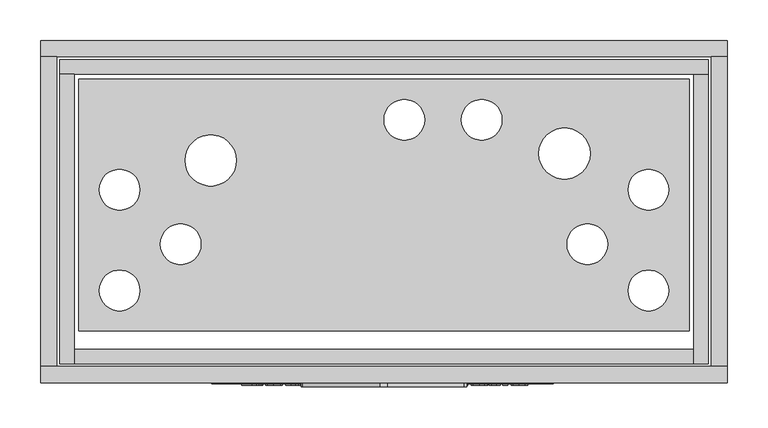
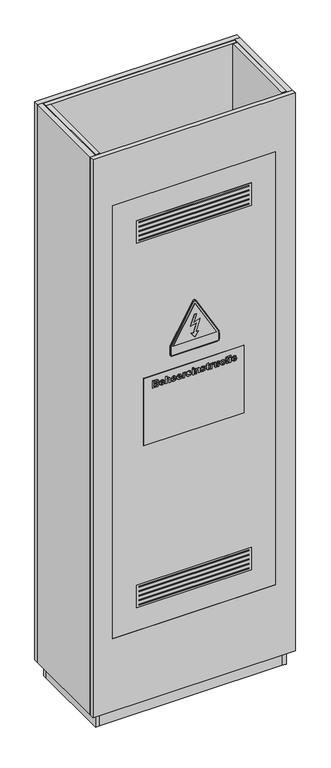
"""IFC4 building model written with IfcOpenShell, lengths in millimetres: proxy geometry, Prefab meterkast : Prefab meterkast."""

from ifc_helpers import new_model, si_unit, point, frame, frame_2d, origin, origin_with_axes, place, context, project, spatial, polyline, circle_curve, trimmed, segment, composite_curve, outline, extrude, source, transform, mapped, element, save


def generic_models_31848814(model_context):
    return source(origin(), model_context, "Body", "SweptSolid", [
        extrude(outline(polyline([(1463.7849568, 247.3485473), (1433.1771748, 247.3485473), (1433.1771748, 257.8092426), (1433.3821377, 265.2941814), (1434.8282643, 269.4579632), (1437.9634364, 272.12248), (1442.0057588, 273.0979512), (1446.5984443, 271.7391236), (1449.3616469, 267.8524211), (1452.0717109, 270.9762064), (1456.0343255, 272.1262756), (1459.6363574, 271.1621912), (1462.2097796, 268.7519802), (1463.4813082, 265.472575), (1463.7849568, 259.9120094), (1463.7849568, 247.3485473)]), holes=[polyline([(1458.4407409, 253.178601), (1458.4407409, 257.0804859), (1458.3420551, 262.8801748), (1457.3058542, 265.4346189), (1455.0930148, 266.2962219), (1452.7928764, 265.297977), (1451.7376974, 262.5613437), (1451.6390116, 257.6270535), (1451.6390116, 253.178601), (1458.4407409, 253.178601)]), polyline([(1446.2947957, 253.178601), (1446.2947957, 258.560773), (1445.8772788, 264.4667389), (1444.5488161, 266.546732), (1442.3321811, 267.2678975), (1439.8612403, 266.3341779), (1438.7035799, 263.9125801), (1438.5213907, 259.3426682), (1438.5213907, 253.178601), (1446.2947957, 253.178601)])]), frame((0.0, -424.0, 0.0), z_axis=(0.0, 1.0, 0.0), x_axis=(0.0, 0.0, 1.0)), (0.0, 0.0, 1.0), 2.0),
        extrude(outline(polyline([(1439.9789042, 290.5881123), (1437.754678, 289.2141023), (1437.0638773, 286.9746936), (1438.5973029, 283.7028796), (1442.893931, 282.3288696), (1442.893931, 296.9040039), (1452.7852852, 294.2091223), (1456.0115519, 286.5192207), (1452.8687886, 279.3379306), (1444.1844377, 276.4988159), (1436.4945361, 278.6395387), (1432.691337, 286.9974673), (1434.3044704, 292.9413892), (1439.0072286, 296.4181661), (1439.9789042, 290.5881123)]), holes=[polyline([(1446.2947957, 291.0739502), (1446.2947957, 282.4275554), (1450.2042718, 283.6421499), (1451.6390116, 286.7697308), (1450.2763884, 289.7758523), (1446.2947957, 291.0739502)])]), frame((0.0, -424.0, 0.0), z_axis=(0.0, 1.0, 0.0), x_axis=(0.0, 0.0, 1.0)), (0.0, 0.0, 1.0), 2.0),
        extrude(outline(polyline([(1463.7849568, 307.1065979), (1463.7849568, 301.2765442), (1433.1771748, 301.2765442), (1433.1771748, 307.1065979), (1444.4501303, 307.1065979), (1448.7467584, 307.6265961), (1450.9178461, 309.2700944), (1451.6390116, 311.8207429), (1451.0772616, 313.8855536), (1449.5628141, 315.0394183), (1445.0650187, 315.3658406), (1433.1771748, 315.3658406), (1433.1771748, 321.1958943), (1446.2796133, 321.1958943), (1450.7128833, 320.8998369), (1453.3204659, 319.7915194), (1455.2562259, 317.3775128), (1456.0115519, 313.7792765), (1452.7017818, 307.1065979), (1463.7849568, 307.1065979)])), frame((0.0, -424.0, 0.0), z_axis=(0.0, 1.0, 0.0), x_axis=(0.0, 0.0, 1.0)), (0.0, 0.0, 1.0), 2.0),
        extrude(outline(polyline([(1439.9789042, 339.6577311), (1437.754678, 338.283721), (1437.0638773, 336.0443124), (1438.5973029, 332.7724984), (1442.893931, 331.3984883), (1442.893931, 345.9736226), (1452.7852852, 343.278741), (1456.0115519, 335.5888394), (1452.8687886, 328.4075493), (1444.1844377, 325.5684346), (1436.4945361, 327.7091575), (1432.691337, 336.067086), (1434.3044704, 342.011008), (1439.0072286, 345.4877848), (1439.9789042, 339.6577311)]), holes=[polyline([(1446.2947957, 340.1435689), (1446.2947957, 331.4971741), (1450.2042718, 332.7117687), (1451.6390116, 335.8393496), (1450.2763884, 338.845471), (1446.2947957, 340.1435689)])]), frame((0.0, -424.0, 0.0), z_axis=(0.0, 1.0, 0.0), x_axis=(0.0, 0.0, 1.0)), (0.0, 0.0, 1.0), 2.0),
        extrude(outline(polyline([(1439.9789042, 362.977946), (1437.754678, 361.6039359), (1437.0638773, 359.3645272), (1438.5973029, 356.0927133), (1442.893931, 354.7187032), (1442.893931, 369.2938375), (1452.7852852, 366.5989559), (1456.0115519, 358.9090543), (1452.8687886, 351.7277642), (1444.1844377, 348.8886495), (1436.4945361, 351.0293723), (1432.691337, 359.3873009), (1434.3044704, 365.3312228), (1439.0072286, 368.8079997), (1439.9789042, 362.977946)]), holes=[polyline([(1446.2947957, 363.4637838), (1446.2947957, 354.817389), (1450.2042718, 356.0319835), (1451.6390116, 359.1595644), (1450.2763884, 362.1656859), (1446.2947957, 363.4637838)])]), frame((0.0, -424.0, 0.0), z_axis=(0.0, 1.0, 0.0), x_axis=(0.0, 0.0, 1.0)), (0.0, 0.0, 1.0), 2.0),
        extrude(outline(polyline([(1439.4930664, 387.7556742), (1434.52082, 391.1603345), (1432.691337, 398.2239608), (1434.888994, 405.6519654), (1440.1459109, 408.1608622), (1444.5260424, 406.430065), (1447.1298294, 400.2697934), (1451.0013495, 395.1115623), (1451.6390116, 397.8823561), (1450.8874812, 400.235633), (1448.7239847, 401.3591329), (1449.6956604, 407.1891866), (1454.4173966, 404.2513861), (1456.0115519, 397.7305318), (1454.0378358, 390.9212112), (1449.1718665, 388.7273499), (1444.1540728, 391.2855896), (1441.2997757, 400.0230789), (1439.4399279, 402.3308085), (1437.8913198, 401.571687), (1437.0638773, 398.2239608), (1437.9292759, 395.0774019), (1440.464742, 393.585728), (1439.4930664, 387.7556742)])), frame((0.0, -424.0, 0.0), z_axis=(0.0, 1.0, 0.0), x_axis=(0.0, 0.0, 1.0)), (0.0, 0.0, 1.0), 2.0),
        extrude(outline(polyline([(1433.1771748, 379.4964315), (1439.8650359, 379.4964315), (1447.1222382, 379.9784737), (1449.5172668, 381.2993452), (1450.1814982, 383.3527691), (1449.2325962, 386.0552419), (1454.7817749, 387.7556742), (1456.0115519, 384.1802116), (1455.3169556, 381.8269347), (1452.4133156, 379.4964315), (1455.5257141, 379.4964315), (1455.5257141, 373.6663778), (1433.1771748, 373.6663778), (1433.1771748, 379.4964315)])), frame((0.0, -424.0, 0.0), z_axis=(0.0, 1.0, 0.0), x_axis=(0.0, 0.0, 1.0)), (0.0, 0.0, 1.0), 2.0),
        extrude(outline(polyline([(419.3351319, -424.0), (413.5050781, -424.0), (413.5050781, -422.0), (419.3351319, -422.0), (419.3351319, -424.0)])), frame((0.0, 0.0, 1458.4407409), z_axis=(0.0, 0.0, 1.0), x_axis=(1.0, 0.0, 0.0)), (0.0, 0.0, 1.0), 5.3442159),
        extrude(outline(polyline([(419.3351319, -424.0), (413.5050781, -424.0), (413.5050781, -422.0), (419.3351319, -422.0), (419.3351319, -424.0)])), frame((0.0, 0.0, 1433.1771748), z_axis=(0.0, 0.0, 1.0), x_axis=(1.0, 0.0, 0.0)), (0.0, 0.0, 1.0), 22.3485392),
        extrude(outline(polyline([(1433.1771748, 445.0845358), (1447.0539173, 445.0845358), (1451.0279187, 444.7770915), (1453.5064507, 443.6801608), (1455.3055688, 441.3572488), (1456.0115519, 437.9715666), (1452.3070386, 430.9952393), (1455.5257141, 430.9952393), (1455.5257141, 425.1651856), (1433.1771748, 425.1651856), (1433.1771748, 430.9952393), (1443.3721776, 430.9952393), (1448.5455912, 431.4317342), (1450.792591, 433.0486632), (1451.6390116, 435.7169755), (1451.0468968, 437.6982828), (1449.3844205, 438.8901037), (1444.6626843, 439.254482), (1433.1771748, 439.254482), (1433.1771748, 445.0845358)])), frame((0.0, -424.0, 0.0), z_axis=(0.0, 1.0, 0.0), x_axis=(0.0, 0.0, 1.0)), (0.0, 0.0, 1.0), 2.0),
        extrude(outline(polyline([(1439.4930664, 448.4854004), (1434.52082, 451.8900607), (1432.691337, 458.953687), (1434.888994, 466.3816916), (1440.1459109, 468.8905884), (1444.5260424, 467.1597912), (1447.1298294, 460.9995196), (1451.0013495, 455.8412885), (1451.6390116, 458.6120823), (1450.8874812, 460.9653592), (1448.7239847, 462.0888591), (1449.6956604, 467.9189128), (1454.4173966, 464.9811123), (1456.0115519, 458.460258), (1454.0378358, 451.6509374), (1449.1718665, 449.457076), (1444.1540728, 452.0153158), (1441.2997757, 460.7528051), (1439.4399279, 463.0605347), (1437.8913198, 462.3014131), (1437.0638773, 458.953687), (1437.9292759, 455.807128), (1440.464742, 454.3154541), (1439.4930664, 448.4854004)])), frame((0.0, -424.0, 0.0), z_axis=(0.0, 1.0, 0.0), x_axis=(0.0, 0.0, 1.0)), (0.0, 0.0, 1.0), 2.0),
        extrude(outline(polyline([(1455.5257141, 484.9232361), (1455.5257141, 480.5506959), (1463.299119, 480.5506959), (1459.8982544, 474.7206421), (1455.5257141, 474.7206421), (1455.5257141, 471.8056153), (1451.1531738, 471.8056153), (1451.1531738, 474.7206421), (1441.239046, 474.7206421), (1436.9955564, 474.9104225), (1434.6498707, 475.7644343), (1433.2379046, 477.6888075), (1432.691337, 480.6341992), (1433.4808235, 485.409074), (1437.6256273, 485.166155), (1438.1759904, 480.6835421), (1441.5654683, 480.5506959), (1451.1531738, 480.5506959), (1451.1531738, 484.9232361), (1455.5257141, 484.9232361)])), frame((0.0, -424.0, 0.0), z_axis=(0.0, 1.0, 0.0), x_axis=(0.0, 0.0, 1.0)), (0.0, 0.0, 1.0), 2.0),
        extrude(outline(polyline([(1433.1771748, 494.1541545), (1439.8650359, 494.1541545), (1447.1222382, 494.6361967), (1449.5172668, 495.9570683), (1450.1814982, 498.0104921), (1449.2325962, 500.712965), (1454.7817749, 502.4133973), (1456.0115519, 498.8379347), (1455.3169556, 496.4846578), (1452.4133156, 494.1541545), (1455.5257141, 494.1541545), (1455.5257141, 488.3241008), (1433.1771748, 488.3241008), (1433.1771748, 494.1541545)])), frame((0.0, -424.0, 0.0), z_axis=(0.0, 1.0, 0.0), x_axis=(0.0, 0.0, 1.0)), (0.0, 0.0, 1.0), 2.0),
        extrude(outline(polyline([(1433.1771748, 518.9318828), (1433.1771748, 524.7619365), (1455.5257141, 524.7619365), (1455.5257141, 518.9318828), (1446.0442856, 518.9318828), (1439.9751086, 518.5029791), (1437.8989111, 516.9088238), (1437.0638773, 514.2708763), (1437.6901526, 512.1415403), (1439.3829937, 510.9876755), (1445.1940694, 510.67264), (1455.5257141, 510.67264), (1455.5257141, 504.8425863), (1441.3984615, 504.8425863), (1436.4527844, 505.6017079), (1433.6781951, 508.0612618), (1432.691337, 511.8948258), (1433.6971731, 515.8840097), (1436.4565801, 518.9318828), (1433.1771748, 518.9318828)])), frame((0.0, -424.0, 0.0), z_axis=(0.0, 1.0, 0.0), x_axis=(0.0, 0.0, 1.0)), (0.0, 0.0, 1.0), 2.0),
        extrude(outline(polyline([(1449.2098226, 549.053827), (1454.3300976, 545.7364657), (1456.0115519, 539.51926), (1452.9333139, 531.9356354), (1444.3286708, 529.1344768), (1435.7809618, 531.9546135), (1432.691337, 539.51926), (1434.6536663, 546.1805518), (1440.464742, 549.5396648), (1441.4364176, 543.7096111), (1438.0469398, 542.2710757), (1437.0638773, 539.6483107), (1438.7870833, 536.2360592), (1444.685458, 534.9645305), (1450.0372651, 536.1867163), (1451.6390116, 539.4661215), (1450.7849998, 541.9826095), (1448.2381469, 543.2237733), (1449.2098226, 549.053827)])), frame((0.0, -424.0, 0.0), z_axis=(0.0, 1.0, 0.0), x_axis=(0.0, 0.0, 1.0)), (0.0, 0.0, 1.0), 2.0),
        extrude(outline(polyline([(1455.5257141, 564.6006369), (1455.5257141, 560.2280966), (1463.299119, 560.2280966), (1459.8982544, 554.3980429), (1455.5257141, 554.3980429), (1455.5257141, 551.483016), (1451.1531738, 551.483016), (1451.1531738, 554.3980429), (1441.239046, 554.3980429), (1436.9955564, 554.5878233), (1434.6498707, 555.4418351), (1433.2379046, 557.3662083), (1432.691337, 560.3116), (1433.4808235, 565.0864747), (1437.6256273, 564.8435558), (1438.1759904, 560.3609429), (1441.5654683, 560.2280966), (1451.1531738, 560.2280966), (1451.1531738, 564.6006369), (1455.5257141, 564.6006369)])), frame((0.0, -424.0, 0.0), z_axis=(0.0, 1.0, 0.0), x_axis=(0.0, 0.0, 1.0)), (0.0, 0.0, 1.0), 2.0),
        extrude(outline(polyline([(573.8315553, -424.0), (568.0015016, -424.0), (568.0015016, -422.0), (573.8315553, -422.0), (573.8315553, -424.0)])), frame((0.0, 0.0, 1433.1771748), z_axis=(0.0, 0.0, 1.0), x_axis=(1.0, 0.0, 0.0)), (0.0, 0.0, 1.0), 22.3485392),
        extrude(outline(polyline([(573.8315553, -424.0), (568.0015016, -424.0), (568.0015016, -422.0), (573.8315553, -422.0), (573.8315553, -424.0)])), frame((0.0, 0.0, 1458.4407409), z_axis=(0.0, 0.0, 1.0), x_axis=(1.0, 0.0, 0.0)), (0.0, 0.0, 1.0), 5.3442159),
        extrude(outline(polyline([(1439.9789042, 592.293392), (1437.754678, 590.919382), (1437.0638773, 588.6799733), (1438.5973029, 585.4081593), (1442.893931, 584.0341493), (1442.893931, 598.6092836), (1452.7852852, 595.914402), (1456.0115519, 588.2245004), (1452.8687886, 581.0432103), (1444.1844377, 578.2040956), (1436.4945361, 580.3448184), (1432.691337, 588.702747), (1434.3044704, 594.6466689), (1439.0072286, 598.1234458), (1439.9789042, 592.293392)]), holes=[polyline([(1446.2947957, 592.7792299), (1446.2947957, 584.1328351), (1450.2042718, 585.3474296), (1451.6390116, 588.4750105), (1450.2763884, 591.481132), (1446.2947957, 592.7792299)])]), frame((0.0, -424.0, 0.0), z_axis=(0.0, 1.0, 0.0), x_axis=(0.0, 0.0, 1.0)), (0.0, 0.0, 1.0), 2.0),
        extrude(outline(polyline([(629.9831542, -422.0), (209.9831542, -422.0), (209.9831542, -421.0), (629.9831542, -421.0), (629.9831542, -422.0)])), frame((0.0, 0.0, 1190.5), z_axis=(0.0, 0.0, 1.0), x_axis=(1.0, 0.0, 0.0)), (0.0, 0.0, 1.0), 297.0),
        extrude(outline(polyline([(585.0, 662.0), (585.0, 182.0), (485.0, 182.0), (485.0, 662.0), (585.0, 662.0)]), holes=[polyline([(577.5, 652.0), (572.5, 652.0), (572.5, 192.0), (577.5, 192.0), (577.5, 652.0)]), polyline([(557.5, 652.0), (552.5, 652.0), (552.5, 192.0), (557.5, 192.0), (557.5, 652.0)]), polyline([(537.5, 652.0), (532.5, 652.0), (532.5, 192.0), (537.5, 192.0), (537.5, 652.0)]), polyline([(517.5, 652.0), (512.5, 652.0), (512.5, 192.0), (517.5, 192.0), (517.5, 652.0)]), polyline([(497.5, 652.0), (492.5, 652.0), (492.5, 192.0), (497.5, 192.0), (497.5, 652.0)])]), frame((0.0, -421.0, 0.0), z_axis=(0.0, 1.0, 0.0), x_axis=(0.0, 0.0, 1.0)), (0.0, 0.0, 1.0), 5.0),
        extrude(outline(polyline([(1699.5261313, 430.0567821), (1699.5261313, 420.0567821), (1651.9733055, 404.6059324), (1658.4437816, 428.7540781), (1620.401521, 416.3933983), (1620.401521, 406.3933983), (1599.7949192, 422.0), (1620.401521, 437.6066017), (1620.401521, 427.6066017), (1672.7096294, 444.6025364), (1665.8830755, 419.1254907), (1699.5261313, 430.0567821)])), frame((0.0, -426.0, 0.0), z_axis=(0.0, 1.0, 0.0), x_axis=(0.0, 0.0, 1.0)), (0.0, 0.0, 1.0), 5.0),
        extrude(outline(polyline([(1589.7949192, 513.339746), (1748.0, 422.0), (1589.7949192, 330.660254), (1589.7949192, 513.339746)]), holes=[polyline([(1620.401521, 406.3933983), (1620.401521, 416.3933983), (1658.4437816, 428.7540781), (1651.9733055, 404.6059324), (1699.5261313, 420.0567821), (1699.5261313, 430.0567821), (1665.8830755, 419.1254907), (1672.7096294, 444.6025364), (1620.401521, 427.6066017), (1620.401521, 437.6066017), (1599.7949192, 422.0), (1620.401521, 406.3933983)])]), frame((0.0, -426.0, 0.0), z_axis=(0.0, 1.0, 0.0), x_axis=(0.0, 0.0, 1.0)), (0.0, 0.0, 1.0), 5.0),
        extrude(outline(composite_curve([segment(polyline([(1597.2665726, 519.99564), (1759.2327228, 426.4844396)]), True, "CONTINUOUS"), segment(trimmed(circle_curve(frame_2d((1756.6436303, 422.0)), 5.1781848), [point((1759.2327228, 426.4844396))], [point((1759.2327228, 417.5155604))], False, "CARTESIAN"), True, "CONTINUOUS"), segment(polyline([(1759.2327228, 417.5155604), (1594.2756814, 322.2775681)]), True, "CONTINUOUS"), segment(trimmed(circle_curve(frame_2d((1585.7756814, 337.0)), 17.0), [point((1594.2756814, 322.2775681))], [point((1585.7756814, 320.0))], False, "CARTESIAN"), True, "CONTINUOUS"), segment(polyline([(1585.7756814, 320.0), (1554.7949192, 320.0)]), True, "CONTINUOUS"), segment(trimmed(circle_curve(frame_2d((1554.7949192, 327.0)), 7.0), [point((1554.7949192, 320.0))], [point((1547.7949192, 327.0))], False, "CARTESIAN"), True, "CONTINUOUS"), segment(polyline([(1547.7949192, 327.0), (1547.7949192, 517.0)]), True, "CONTINUOUS"), segment(trimmed(circle_curve(frame_2d((1554.7949192, 517.0)), 7.0), [point((1547.7949192, 517.0))], [point((1554.7949192, 524.0))], False, "CARTESIAN"), True, "CONTINUOUS"), segment(polyline([(1554.7949192, 524.0), (1582.3220976, 524.0)]), True, "CONTINUOUS"), segment(trimmed(circle_curve(frame_2d((1582.3220976, 494.1110501)), 29.8889499), [point((1582.3220976, 524.0))], [point((1597.2665726, 519.99564))], False, "CARTESIAN"), True, "CONTINUOUS")], self_intersect=False), holes=[composite_curve([segment(trimmed(circle_curve(frame_2d((1582.3220976, 494.1110501)), 27.8889499), [point((1596.2665726, 518.2635892))], [point((1582.3220976, 522.0))], True, "CARTESIAN"), True, "CONTINUOUS"), segment(polyline([(1582.3220976, 522.0), (1554.7949192, 522.0)]), True, "CONTINUOUS"), segment(trimmed(circle_curve(frame_2d((1554.7949192, 517.0)), 5.0), [point((1554.7949192, 522.0))], [point((1549.7949192, 517.0))], True, "CARTESIAN"), True, "CONTINUOUS"), segment(polyline([(1549.7949192, 517.0), (1549.7949192, 327.0)]), True, "CONTINUOUS"), segment(trimmed(circle_curve(frame_2d((1554.7949192, 327.0)), 5.0), [point((1549.7949192, 327.0))], [point((1554.7949192, 322.0))], True, "CARTESIAN"), True, "CONTINUOUS"), segment(polyline([(1554.7949192, 322.0), (1585.7756814, 322.0)]), True, "CONTINUOUS"), segment(trimmed(circle_curve(frame_2d((1585.7756814, 337.0)), 15.0), [point((1585.7756814, 322.0))], [point((1593.2756814, 324.0096189))], True, "CARTESIAN"), True, "CONTINUOUS"), segment(polyline([(1593.2756814, 324.0096189), (1758.2327228, 419.2476112)]), True, "CONTINUOUS"), segment(trimmed(circle_curve(frame_2d((1756.6436303, 422.0)), 3.1781848), [point((1758.2327228, 419.2476112))], [point((1758.2327228, 424.7523888))], True, "CARTESIAN"), True, "CONTINUOUS"), segment(polyline([(1758.2327228, 424.7523888), (1596.2665726, 518.2635892)]), True, "CONTINUOUS")], self_intersect=False)]), frame((0.0, -426.0, 0.0), z_axis=(0.0, 1.0, 0.0), x_axis=(0.0, 0.0, 1.0)), (0.0, 0.0, 1.0), 5.0),
        extrude(outline(polyline([(802.5, -397.5), (41.5, -397.5), (41.5, -379.5), (802.5, -379.5), (802.5, -397.5)])), origin_with_axes(), (0.0, 0.0, 1.0), 100.0),
        extrude(outline(composite_curve([segment(polyline([(1596.2665726, 518.2635892), (1758.2327228, 424.7523888)]), True, "CONTINUOUS"), segment(trimmed(circle_curve(frame_2d((1756.6436303, 422.0)), 3.1781848), [point((1758.2327228, 424.7523888))], [point((1758.2327228, 419.2476112))], False, "CARTESIAN"), True, "CONTINUOUS"), segment(polyline([(1758.2327228, 419.2476112), (1593.2756814, 324.0096189)]), True, "CONTINUOUS"), segment(trimmed(circle_curve(frame_2d((1585.7756814, 337.0)), 15.0), [point((1593.2756814, 324.0096189))], [point((1585.7756814, 322.0))], False, "CARTESIAN"), True, "CONTINUOUS"), segment(polyline([(1585.7756814, 322.0), (1554.7949192, 322.0)]), True, "CONTINUOUS"), segment(trimmed(circle_curve(frame_2d((1554.7949192, 327.0)), 5.0), [point((1554.7949192, 322.0))], [point((1549.7949192, 327.0))], False, "CARTESIAN"), True, "CONTINUOUS"), segment(polyline([(1549.7949192, 327.0), (1549.7949192, 517.0)]), True, "CONTINUOUS"), segment(trimmed(circle_curve(frame_2d((1554.7949192, 517.0)), 5.0), [point((1549.7949192, 517.0))], [point((1554.7949192, 522.0))], False, "CARTESIAN"), True, "CONTINUOUS"), segment(polyline([(1554.7949192, 522.0), (1582.3220976, 522.0)]), True, "CONTINUOUS"), segment(trimmed(circle_curve(frame_2d((1582.3220976, 494.1110501)), 27.8889499), [point((1582.3220976, 522.0))], [point((1596.2665726, 518.2635892))], False, "CARTESIAN"), True, "CONTINUOUS")], self_intersect=False), holes=[polyline([(1589.7949192, 330.660254), (1748.0, 422.0), (1589.7949192, 513.339746), (1589.7949192, 330.660254)])]), frame((0.0, -426.0, 0.0), z_axis=(0.0, 1.0, 0.0), x_axis=(0.0, 0.0, 1.0)), (0.0, 0.0, 1.0), 5.0),
        extrude(outline(polyline([(2193.0, 662.0), (2193.0, 182.0), (2093.0, 182.0), (2093.0, 662.0), (2193.0, 662.0)]), holes=[polyline([(2185.5, 652.0), (2180.5, 652.0), (2180.5, 192.0), (2185.5, 192.0), (2185.5, 652.0)]), polyline([(2165.5, 652.0), (2160.5, 652.0), (2160.5, 192.0), (2165.5, 192.0), (2165.5, 652.0)]), polyline([(2145.5, 652.0), (2140.5, 652.0), (2140.5, 192.0), (2145.5, 192.0), (2145.5, 652.0)]), polyline([(2125.5, 652.0), (2120.5, 652.0), (2120.5, 192.0), (2125.5, 192.0), (2125.5, 652.0)]), polyline([(2105.5, 652.0), (2100.5, 652.0), (2100.5, 192.0), (2105.5, 192.0), (2105.5, 652.0)])]), frame((0.0, -421.0, 0.0), z_axis=(0.0, 1.0, 0.0), x_axis=(0.0, 0.0, 1.0)), (0.0, 0.0, 1.0), 5.0),
        extrude(outline(polyline([(2293.0, 762.0), (2293.0, 82.0), (385.0, 82.0), (385.0, 762.0), (2293.0, 762.0)]), holes=[polyline([(2193.0, 662.0), (2093.0, 662.0), (2093.0, 182.0), (2193.0, 182.0), (2193.0, 662.0)]), polyline([(585.0, 662.0), (485.0, 662.0), (485.0, 182.0), (585.0, 182.0), (585.0, 662.0)])]), frame((0.0, -421.0, 0.0), z_axis=(0.0, 1.0, 0.0), x_axis=(0.0, 0.0, 1.0)), (0.0, 0.0, 1.0), 20.0),
        extrude(outline(polyline([(2525.0, 844.0), (2525.0, 0.0), (65.0, 0.0), (65.0, 844.0), (2525.0, 844.0)]), holes=[polyline([(2293.0, 762.0), (385.0, 762.0), (385.0, 82.0), (2293.0, 82.0), (2293.0, 762.0)])]), frame((0.0, -421.0, 0.0), z_axis=(0.0, 1.0, 0.0), x_axis=(0.0, 0.0, 1.0)), (0.0, 0.0, 1.0), 20.0),
        extrude(outline(polyline([(23.5, -397.5), (23.5, -41.5), (41.5, -41.5), (41.5, -397.5), (23.5, -397.5)])), origin_with_axes(), (0.0, 0.0, 1.0), 2525.0),
        extrude(outline(polyline([(23.5, -23.5), (820.5, -23.5), (820.5, -41.5), (23.5, -41.5), (23.5, -23.5)])), origin_with_axes(), (0.0, 0.0, 1.0), 2525.0),
        extrude(outline(polyline([(802.5, -397.5), (802.5, -41.5), (820.5, -41.5), (820.5, -397.5), (802.5, -397.5)])), origin_with_axes(), (0.0, 0.0, 1.0), 2525.0),
        extrude(outline(polyline([(797.0, -357.0), (47.0, -357.0), (47.0, -47.0), (797.0, -47.0), (797.0, -357.0)]), holes=[composite_curve([segment(trimmed(circle_curve(frame_2d((209.0, -147.0)), 31.5), [point((177.5, -147.0))], [point((240.5, -147.0))], True, "CARTESIAN"), True, "CONTINUOUS"), segment(trimmed(circle_curve(frame_2d((209.0, -147.0)), 31.5), [point((240.5, -147.0))], [point((177.5, -147.0))], True, "CARTESIAN"), True, "CONTINUOUS")], self_intersect=False), composite_curve([segment(trimmed(circle_curve(frame_2d((97.0, -307.0)), 25.0), [point((72.0, -307.0))], [point((122.0, -307.0))], True, "CARTESIAN"), True, "CONTINUOUS"), segment(trimmed(circle_curve(frame_2d((97.0, -307.0)), 25.0), [point((122.0, -307.0))], [point((72.0, -307.0))], True, "CARTESIAN"), True, "CONTINUOUS")], self_intersect=False), composite_curve([segment(trimmed(circle_curve(frame_2d((97.0, -183.0)), 25.0), [point((72.0, -183.0))], [point((122.0, -183.0))], True, "CARTESIAN"), True, "CONTINUOUS"), segment(trimmed(circle_curve(frame_2d((97.0, -183.0)), 25.0), [point((122.0, -183.0))], [point((72.0, -183.0))], True, "CARTESIAN"), True, "CONTINUOUS")], self_intersect=False), composite_curve([segment(trimmed(circle_curve(frame_2d((172.0, -250.0)), 25.0), [point((147.0, -250.0))], [point((197.0, -250.0))], True, "CARTESIAN"), True, "CONTINUOUS"), segment(trimmed(circle_curve(frame_2d((172.0, -250.0)), 25.0), [point((197.0, -250.0))], [point((147.0, -250.0))], True, "CARTESIAN"), True, "CONTINUOUS")], self_intersect=False), composite_curve([segment(trimmed(circle_curve(frame_2d((643.8122572, -138.5696777)), 31.5), [point((675.3122572, -138.5696777))], [point((612.3122572, -138.5696777))], True, "CARTESIAN"), True, "CONTINUOUS"), segment(trimmed(circle_curve(frame_2d((643.8122572, -138.5696777)), 31.5), [point((612.3122572, -138.5696777))], [point((675.3122572, -138.5696777))], True, "CARTESIAN"), True, "CONTINUOUS")], self_intersect=False), composite_curve([segment(trimmed(circle_curve(frame_2d((747.0, -307.0)), 25.0), [point((772.0, -307.0))], [point((722.0, -307.0))], True, "CARTESIAN"), True, "CONTINUOUS"), segment(trimmed(circle_curve(frame_2d((747.0, -307.0)), 25.0), [point((722.0, -307.0))], [point((772.0, -307.0))], True, "CARTESIAN"), True, "CONTINUOUS")], self_intersect=False), composite_curve([segment(trimmed(circle_curve(frame_2d((747.0, -183.0)), 25.0), [point((772.0, -183.0))], [point((722.0, -183.0))], True, "CARTESIAN"), True, "CONTINUOUS"), segment(trimmed(circle_curve(frame_2d((747.0, -183.0)), 25.0), [point((722.0, -183.0))], [point((772.0, -183.0))], True, "CARTESIAN"), True, "CONTINUOUS")], self_intersect=False), composite_curve([segment(trimmed(circle_curve(frame_2d((672.0, -250.0)), 25.0), [point((697.0, -250.0))], [point((647.0, -250.0))], True, "CARTESIAN"), True, "CONTINUOUS"), segment(trimmed(circle_curve(frame_2d((672.0, -250.0)), 25.0), [point((647.0, -250.0))], [point((697.0, -250.0))], True, "CARTESIAN"), True, "CONTINUOUS")], self_intersect=False), composite_curve([segment(trimmed(circle_curve(frame_2d((542.0, -97.0)), 25.0), [point((517.0, -97.0))], [point((567.0, -97.0))], True, "CARTESIAN"), True, "CONTINUOUS"), segment(trimmed(circle_curve(frame_2d((542.0, -97.0)), 25.0), [point((567.0, -97.0))], [point((517.0, -97.0))], True, "CARTESIAN"), True, "CONTINUOUS")], self_intersect=False), composite_curve([segment(trimmed(circle_curve(frame_2d((447.0, -97.0)), 25.0), [point((422.0, -97.0))], [point((472.0, -97.0))], True, "CARTESIAN"), True, "CONTINUOUS"), segment(trimmed(circle_curve(frame_2d((447.0, -97.0)), 25.0), [point((472.0, -97.0))], [point((422.0, -97.0))], True, "CARTESIAN"), True, "CONTINUOUS")], self_intersect=False)]), origin_with_axes(), (0.0, 0.0, 1.0), 65.0),
        extrude(outline(polyline([(824.0, -401.0), (824.0, -20.0), (844.0, -20.0), (844.0, -401.0), (824.0, -401.0)])), frame((0.0, 0.0, 65.0), z_axis=(0.0, 0.0, 1.0), x_axis=(1.0, 0.0, 0.0)), (0.0, 0.0, 1.0), 2460.0),
        extrude(outline(polyline([(0.0, -401.0), (0.0, -20.0), (20.0, -20.0), (20.0, -401.0), (0.0, -401.0)])), frame((0.0, 0.0, 65.0), z_axis=(0.0, 0.0, 1.0), x_axis=(1.0, 0.0, 0.0)), (0.0, 0.0, 1.0), 2460.0),
        extrude(outline(polyline([(844.0, 0.0), (844.0, -20.0), (0.0, -20.0), (0.0, 0.0), (844.0, 0.0)])), frame((0.0, 0.0, 65.0), z_axis=(0.0, 0.0, 1.0), x_axis=(1.0, 0.0, 0.0)), (0.0, 0.0, 1.0), 2460.0),
    ])


if __name__ == "__main__":
    model = new_model("IFC4")
    model_context = context("Model", 3, world=origin())
    ifc_project = project(units=[si_unit("LENGTHUNIT", "METRE", prefix="MILLI")], contexts=[model_context])
    site = spatial("IfcSite", under=ifc_project)
    building = spatial("IfcBuilding", under=site)
    placement = place(None, origin())
    generic_models_shape = generic_models_31848814(model_context)
    element("IfcBuildingElementProxy", 1, Name="Prefab meterkast : Prefab meterkast", ObjectType="Prefab meterkast : Prefab meterkast", at=placement, inside=building, context=model_context, shape_type="MappedRepresentation", body=[
        mapped(generic_models_shape, transform((0.0, 0.0, 0.0), x_axis=(1.0, 0.0, 0.0), y_axis=(0.0, 1.0, 0.0), z_axis=(0.0, 0.0, 1.0))),
    ])
    save(model, "model.ifc")
